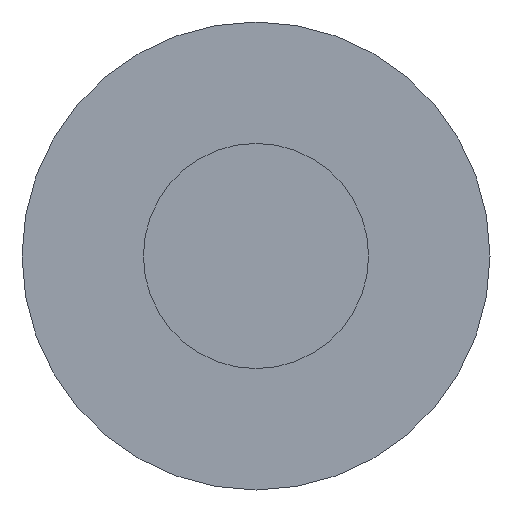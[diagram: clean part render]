
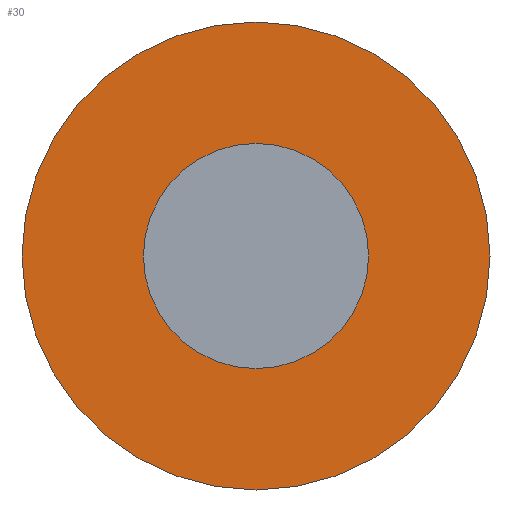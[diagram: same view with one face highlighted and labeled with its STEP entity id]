
A CAD part, front view. The second image highlights one B-rep face of the part: STEP entity #30.
In plain terms, the highlighted planar face has unit normal (0, -1, 0).
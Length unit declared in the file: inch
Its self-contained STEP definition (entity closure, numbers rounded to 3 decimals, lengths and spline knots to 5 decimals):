
#9 = CARTESIAN_POINT ( 'NONE',  ( 0., -0.25084, -0.095 ) ) ;
#14 = EDGE_LOOP ( 'NONE', ( #234, #241 ) ) ;
#16 = DIRECTION ( 'NONE',  ( 0., -1., 0. ) ) ;
#18 = EDGE_CURVE ( 'NONE', #92, #154, #355, .T. ) ;
#30 = ADVANCED_FACE ( 'NONE', ( #195, #48 ), #131, .T. ) ;
#38 = DIRECTION ( 'NONE',  ( 0., 0., -1. ) ) ;
#43 = CIRCLE ( 'NONE', #191, 0.1975 ) ;
#48 = FACE_BOUND ( 'NONE', #14, .T. ) ;
#51 = AXIS2_PLACEMENT_3D ( 'NONE', #240, #331, #350 ) ;
#59 = CARTESIAN_POINT ( 'NONE',  ( 0., -0.25084, 0. ) ) ;
#76 = CARTESIAN_POINT ( 'NONE',  ( 0., -0.25084, 0. ) ) ;
#92 = VERTEX_POINT ( 'NONE', #114 ) ;
#94 = ORIENTED_EDGE ( 'NONE', *, *, #188, .T. ) ;
#100 = EDGE_CURVE ( 'NONE', #242, #187, #43, .T. ) ;
#101 = DIRECTION ( 'NONE',  ( 0., -1., 0. ) ) ;
#114 = CARTESIAN_POINT ( 'NONE',  ( 0., -0.25084, 0.095 ) ) ;
#117 = CARTESIAN_POINT ( 'NONE',  ( 0., -0.25084, -0.1975 ) ) ;
#131 = PLANE ( 'NONE',  #326 ) ;
#148 = AXIS2_PLACEMENT_3D ( 'NONE', #76, #101, #362 ) ;
#154 = VERTEX_POINT ( 'NONE', #9 ) ;
#173 = DIRECTION ( 'NONE',  ( 0., -1., 0. ) ) ;
#187 = VERTEX_POINT ( 'NONE', #117 ) ;
#188 = EDGE_CURVE ( 'NONE', #187, #242, #205, .T. ) ;
#191 = AXIS2_PLACEMENT_3D ( 'NONE', #59, #173, #38 ) ;
#195 = FACE_OUTER_BOUND ( 'NONE', #330, .T. ) ;
#200 = DIRECTION ( 'NONE',  ( 0., -1., 0. ) ) ;
#205 = CIRCLE ( 'NONE', #51, 0.1975 ) ;
#226 = CARTESIAN_POINT ( 'NONE',  ( 0., -0.25084, 0. ) ) ;
#234 = ORIENTED_EDGE ( 'NONE', *, *, #342, .F. ) ;
#240 = CARTESIAN_POINT ( 'NONE',  ( 0., -0.25084, 0. ) ) ;
#241 = ORIENTED_EDGE ( 'NONE', *, *, #18, .F. ) ;
#242 = VERTEX_POINT ( 'NONE', #286 ) ;
#244 = AXIS2_PLACEMENT_3D ( 'NONE', #226, #200, #284 ) ;
#252 = DIRECTION ( 'NONE',  ( 0., 0., -1. ) ) ;
#284 = DIRECTION ( 'NONE',  ( 0., 0., -1. ) ) ;
#286 = CARTESIAN_POINT ( 'NONE',  ( 0., -0.25084, 0.1975 ) ) ;
#303 = CARTESIAN_POINT ( 'NONE',  ( 0., -0.25084, -0.095 ) ) ;
#326 = AXIS2_PLACEMENT_3D ( 'NONE', #303, #16, #252 ) ;
#328 = CIRCLE ( 'NONE', #244, 0.095 ) ;
#330 = EDGE_LOOP ( 'NONE', ( #94, #356 ) ) ;
#331 = DIRECTION ( 'NONE',  ( 0., -1., 0. ) ) ;
#342 = EDGE_CURVE ( 'NONE', #154, #92, #328, .T. ) ;
#350 = DIRECTION ( 'NONE',  ( 0., 0., -1. ) ) ;
#355 = CIRCLE ( 'NONE', #148, 0.095 ) ;
#356 = ORIENTED_EDGE ( 'NONE', *, *, #100, .T. ) ;
#362 = DIRECTION ( 'NONE',  ( 0., 0., -1. ) ) ;
